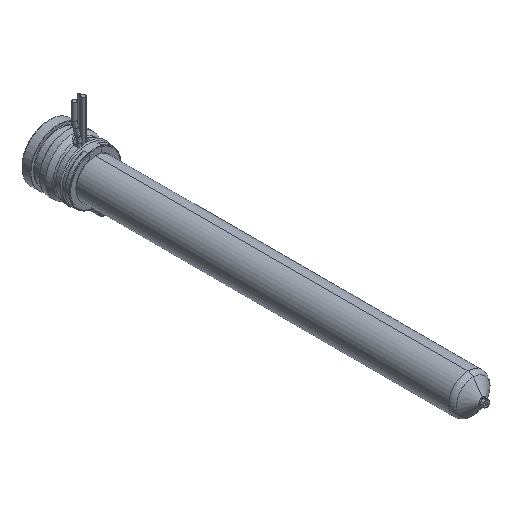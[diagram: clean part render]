
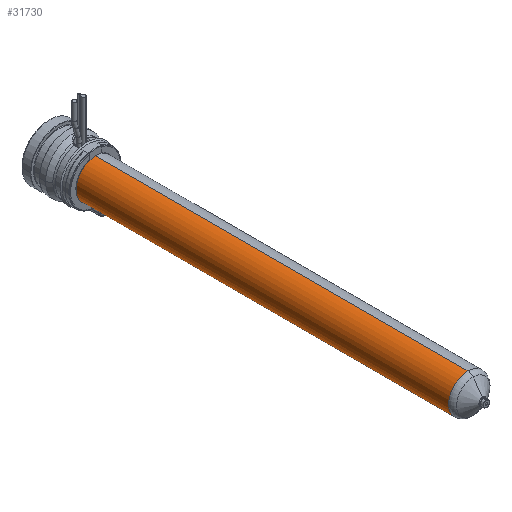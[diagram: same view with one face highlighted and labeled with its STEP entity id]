
A CAD part, isometric view. The second image highlights one B-rep face of the part: STEP entity #31730.
In plain terms, the highlighted cylindrical face has radius 9 mm (diameter 18 mm), a partial arc.
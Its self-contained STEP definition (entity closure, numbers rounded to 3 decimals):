
#31296=CARTESIAN_POINT('',(0.,-195.471,0.));
#31297=DIRECTION('',(0.,-1.,0.));
#31298=DIRECTION('',(0.,0.,1.));
#31299=AXIS2_PLACEMENT_3D('',#31296,#31297,#31298);
#31328=DIRECTION('',(0.,-1.,0.));
#31329=VECTOR('',#31328,173.471);
#31330=CARTESIAN_POINT('',(0.,-22.,9.));
#31331=LINE('',#31330,#31329);
#31343=DIRECTION('',(0.,-1.,0.));
#31344=VECTOR('',#31343,173.471);
#31345=CARTESIAN_POINT('',(0.,-22.,-9.));
#31346=LINE('',#31345,#31344);
#31350=CARTESIAN_POINT('',(0.,-22.,0.));
#31351=DIRECTION('',(0.,-1.,0.));
#31352=DIRECTION('',(0.,0.,1.));
#31353=AXIS2_PLACEMENT_3D('',#31350,#31351,#31352);
#31546=CARTESIAN_POINT('',(0.,-22.,9.));
#31547=CARTESIAN_POINT('',(0.,-195.471,9.));
#31548=VERTEX_POINT('',#31546);
#31549=VERTEX_POINT('',#31547);
#31558=CARTESIAN_POINT('',(0.,-22.,-9.));
#31559=CARTESIAN_POINT('',(0.,-195.471,-9.));
#31560=VERTEX_POINT('',#31558);
#31561=VERTEX_POINT('',#31559);
#31718=CARTESIAN_POINT('',(0.,-8.7,0.));
#31719=DIRECTION('',(0.,-1.,0.));
#31720=DIRECTION('',(0.,0.,1.));
#31721=AXIS2_PLACEMENT_3D('',#31718,#31719,#31720);
#31722=CYLINDRICAL_SURFACE('',#31721,9.);
#31723=ORIENTED_EDGE('',*,*,#31708,.T.);
#31724=ORIENTED_EDGE('',*,*,#31685,.T.);
#31725=ORIENTED_EDGE('',*,*,#31712,.F.);
#31727=ORIENTED_EDGE('',*,*,#31726,.F.);
#31728=EDGE_LOOP('',(#31723,#31724,#31725,#31727));
#31729=FACE_OUTER_BOUND('',#31728,.F.);
#31730=ADVANCED_FACE('',(#31729),#31722,.T.);
#31300=CIRCLE('',#31299,9.);
#31354=CIRCLE('',#31353,9.);
#31685=EDGE_CURVE('',#31549,#31561,#31300,.T.);
#31708=EDGE_CURVE('',#31548,#31549,#31331,.T.);
#31712=EDGE_CURVE('',#31560,#31561,#31346,.T.);
#31726=EDGE_CURVE('',#31548,#31560,#31354,.T.);
